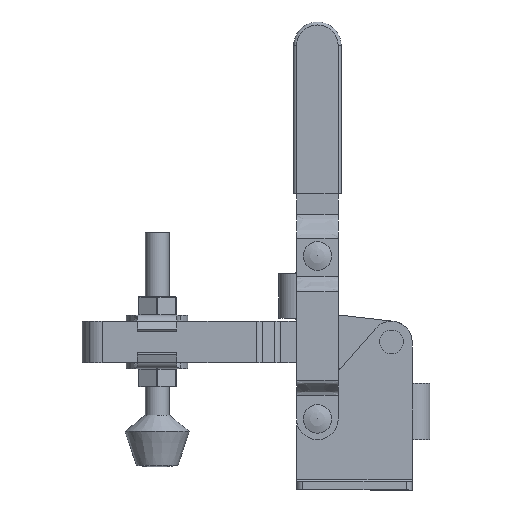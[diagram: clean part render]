
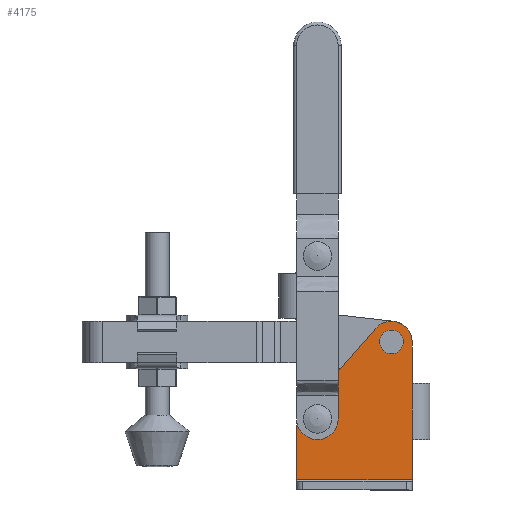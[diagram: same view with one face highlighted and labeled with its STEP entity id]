
A CAD part, front view. The second image highlights one B-rep face of the part: STEP entity #4175.
In plain terms, the highlighted planar face has unit normal (0, -1, 0).
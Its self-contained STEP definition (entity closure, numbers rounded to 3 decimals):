
#178=FACE_BOUND('',#649,.T.);
#179=FACE_BOUND('',#650,.T.);
#264=PLANE('',#4473);
#381=FACE_OUTER_BOUND('',#648,.T.);
#648=EDGE_LOOP('',(#2958,#2959,#2960,#2961,#2962,#2963,#2964,#2965));
#649=EDGE_LOOP('',(#2966));
#650=EDGE_LOOP('',(#2967));
#998=LINE('',#6390,#1324);
#1006=LINE('',#6412,#1332);
#1007=LINE('',#6417,#1333);
#1008=LINE('',#6421,#1334);
#1009=LINE('',#6423,#1335);
#1010=LINE('',#6424,#1336);
#1324=VECTOR('',#5032,13.5);
#1332=VECTOR('',#5054,20.);
#1333=VECTOR('',#5059,38.006);
#1334=VECTOR('',#5062,17.874);
#1335=VECTOR('',#5063,39.);
#1336=VECTOR('',#5064,13.);
#1649=CIRCLE('',#4474,7.);
#1650=CIRCLE('',#4475,7.);
#1651=CIRCLE('',#4476,2.5);
#1652=CIRCLE('',#4477,2.5);
#1885=VERTEX_POINT('',#6321);
#1897=VERTEX_POINT('',#6371);
#1900=VERTEX_POINT('',#6388);
#1908=VERTEX_POINT('',#6414);
#1909=VERTEX_POINT('',#6416);
#1910=VERTEX_POINT('',#6418);
#1911=VERTEX_POINT('',#6420);
#1912=VERTEX_POINT('',#6422);
#1913=VERTEX_POINT('',#6425);
#1914=VERTEX_POINT('',#6427);
#2317=EDGE_CURVE('',#1897,#1900,#998,.T.);
#2329=EDGE_CURVE('',#1885,#1897,#1006,.T.);
#2330=EDGE_CURVE('',#1900,#1908,#1649,.T.);
#2331=EDGE_CURVE('',#1908,#1909,#1007,.T.);
#2332=EDGE_CURVE('',#1909,#1910,#1650,.T.);
#2333=EDGE_CURVE('',#1911,#1910,#1008,.T.);
#2334=EDGE_CURVE('',#1912,#1911,#1009,.T.);
#2335=EDGE_CURVE('',#1912,#1885,#1010,.T.);
#2336=EDGE_CURVE('',#1913,#1913,#1651,.T.);
#2337=EDGE_CURVE('',#1914,#1914,#1652,.T.);
#2958=ORIENTED_EDGE('',*,*,#2329,.T.);
#2959=ORIENTED_EDGE('',*,*,#2317,.T.);
#2960=ORIENTED_EDGE('',*,*,#2330,.T.);
#2961=ORIENTED_EDGE('',*,*,#2331,.T.);
#2962=ORIENTED_EDGE('',*,*,#2332,.T.);
#2963=ORIENTED_EDGE('',*,*,#2333,.F.);
#2964=ORIENTED_EDGE('',*,*,#2334,.F.);
#2965=ORIENTED_EDGE('',*,*,#2335,.T.);
#2966=ORIENTED_EDGE('',*,*,#2336,.T.);
#2967=ORIENTED_EDGE('',*,*,#2337,.T.);
#4175=ADVANCED_FACE('',(#381,#178,#179),#264,.T.);
#4473=AXIS2_PLACEMENT_3D('',#6413,#5055,#5056);
#4474=AXIS2_PLACEMENT_3D('',#6415,#5057,#5058);
#4475=AXIS2_PLACEMENT_3D('',#6419,#5060,#5061);
#4476=AXIS2_PLACEMENT_3D('',#6426,#5065,#5066);
#4477=AXIS2_PLACEMENT_3D('',#6428,#5067,#5068);
#5032=DIRECTION('',(0.,0.,1.));
#5054=DIRECTION('',(0.,0.,1.));
#5055=DIRECTION('center_axis',(0.,-1.,0.));
#5056=DIRECTION('ref_axis',(1.,0.,0.));
#5057=DIRECTION('center_axis',(0.,-1.,0.));
#5058=DIRECTION('ref_axis',(1.,0.,0.));
#5059=DIRECTION('',(-0.658,0.,-0.753));
#5060=DIRECTION('center_axis',(0.,-1.,0.));
#5061=DIRECTION('ref_axis',(-0.753,0.,0.658));
#5062=DIRECTION('',(0.,0.,1.));
#5063=DIRECTION('',(-1.,0.,0.));
#5064=DIRECTION('',(0.,0.,1.));
#5065=DIRECTION('center_axis',(0.,1.,0.));
#5066=DIRECTION('ref_axis',(-1.,0.,0.));
#5067=DIRECTION('center_axis',(0.,1.,0.));
#5068=DIRECTION('ref_axis',(-1.,0.,0.));
#6321=CARTESIAN_POINT('',(19.5,-6.25,16.5));
#6371=CARTESIAN_POINT('',(19.5,-6.25,36.5));
#6388=CARTESIAN_POINT('',(19.5,-6.25,50.));
#6390=CARTESIAN_POINT('',(19.5,-6.25,0.));
#6412=CARTESIAN_POINT('',(19.5,-6.25,0.));
#6413=CARTESIAN_POINT('Origin',(-19.5,-6.25,0.));
#6414=CARTESIAN_POINT('',(7.228,-6.25,54.605));
#6415=CARTESIAN_POINT('Origin',(12.5,-6.25,50.));
#6416=CARTESIAN_POINT('',(-17.772,-6.25,25.978));
#6417=CARTESIAN_POINT('',(-24.582,-6.25,18.181));
#6418=CARTESIAN_POINT('',(-19.5,-6.25,21.374));
#6419=CARTESIAN_POINT('Origin',(-12.5,-6.25,21.374));
#6420=CARTESIAN_POINT('',(-19.5,-6.25,3.5));
#6421=CARTESIAN_POINT('',(-19.5,-6.25,0.));
#6422=CARTESIAN_POINT('',(19.5,-6.25,3.5));
#6423=CARTESIAN_POINT('',(-9.75,-6.25,3.5));
#6424=CARTESIAN_POINT('',(19.5,-6.25,0.));
#6425=CARTESIAN_POINT('',(-10.,-6.25,24.));
#6426=CARTESIAN_POINT('Origin',(-12.5,-6.25,24.));
#6427=CARTESIAN_POINT('',(15.,-6.25,50.));
#6428=CARTESIAN_POINT('Origin',(12.5,-6.25,50.));
